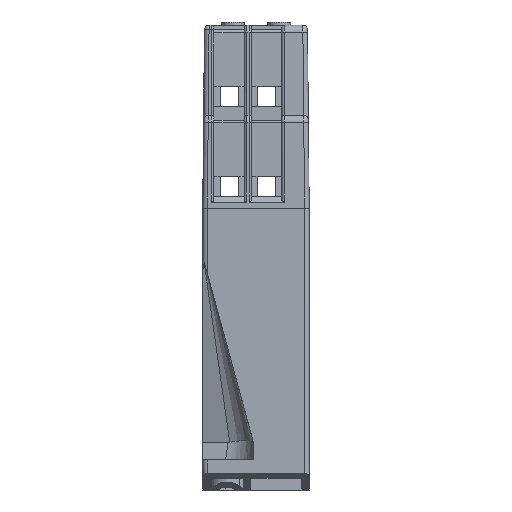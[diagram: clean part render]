
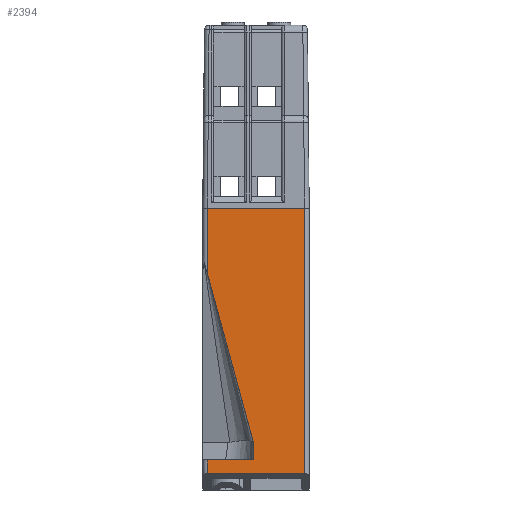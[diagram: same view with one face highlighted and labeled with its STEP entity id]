
A CAD part, left-side view. The second image highlights one B-rep face of the part: STEP entity #2394.
In plain terms, the highlighted planar face has unit normal (-1, 0, 0).
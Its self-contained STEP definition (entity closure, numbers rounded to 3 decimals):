
#2394 = ADVANCED_FACE( '', ( #4927 ), #4928, .F. );
#4927 = FACE_OUTER_BOUND( '', #8070, .T. );
#4928 = PLANE( '', #8071 );
#8070 = EDGE_LOOP( '', ( #15580, #15581, #15582, #15583, #15584, #15585, #15586, #15587 ) );
#8071 = AXIS2_PLACEMENT_3D( '', #15588, #15589, #15590 );
#15580 = ORIENTED_EDGE( '', *, *, #17244, .T. );
#15581 = ORIENTED_EDGE( '', *, *, #17096, .T. );
#15582 = ORIENTED_EDGE( '', *, *, #19326, .F. );
#15583 = ORIENTED_EDGE( '', *, *, #18962, .F. );
#15584 = ORIENTED_EDGE( '', *, *, #19461, .T. );
#15585 = ORIENTED_EDGE( '', *, *, #17604, .T. );
#15586 = ORIENTED_EDGE( '', *, *, #18768, .T. );
#15587 = ORIENTED_EDGE( '', *, *, #16918, .T. );
#15588 = CARTESIAN_POINT( '', ( -37.5, -11.35, 0. ) );
#15589 = DIRECTION( '', ( 1., 0., 0. ) );
#15590 = DIRECTION( '', ( 0., 1., 0. ) );
#16918 = EDGE_CURVE( '', #20488, #20485, #20489, .T. );
#17096 = EDGE_CURVE( '', #20795, #20792, #20796, .T. );
#17244 = EDGE_CURVE( '', #20485, #20795, #21048, .T. );
#17604 = EDGE_CURVE( '', #21645, #21642, #21646, .T. );
#18768 = EDGE_CURVE( '', #21642, #20488, #23332, .T. );
#18962 = EDGE_CURVE( '', #23582, #23578, #23584, .T. );
#19326 = EDGE_CURVE( '', #23578, #20792, #23997, .T. );
#19461 = EDGE_CURVE( '', #23582, #21645, #24138, .T. );
#20485 = VERTEX_POINT( '', #25576 );
#20488 = VERTEX_POINT( '', #25579 );
#20489 = LINE( '', #25580, #25581 );
#20792 = VERTEX_POINT( '', #26011 );
#20795 = VERTEX_POINT( '', #26014 );
#20796 = LINE( '', #26015, #26016 );
#21048 = LINE( '', #26382, #26383 );
#21642 = VERTEX_POINT( '', #27274 );
#21645 = VERTEX_POINT( '', #27277 );
#21646 = LINE( '', #27278, #27279 );
#23332 = LINE( '', #29853, #29854 );
#23578 = VERTEX_POINT( '', #30204 );
#23582 = VERTEX_POINT( '', #30210 );
#23584 = LINE( '', #30213, #30214 );
#23997 = LINE( '', #30831, #30832 );
#24138 = LINE( '', #31021, #31022 );
#25576 = CARTESIAN_POINT( '', ( -37.5, -10.5, 55.9 ) );
#25579 = CARTESIAN_POINT( '', ( -37.5, -10.5, -1.4 ) );
#25580 = CARTESIAN_POINT( '', ( -37.5, -10.5, 55.9 ) );
#25581 = VECTOR( '', #31732, 1000. );
#26011 = CARTESIAN_POINT( '', ( -37.5, 10.51, 41.817 ) );
#26014 = CARTESIAN_POINT( '', ( -37.5, 10.51, 55.9 ) );
#26015 = CARTESIAN_POINT( '', ( -37.5, 10.51, 45.451 ) );
#26016 = VECTOR( '', #31923, 1000. );
#26382 = CARTESIAN_POINT( '', ( -37.5, -11.35, 55.9 ) );
#26383 = VECTOR( '', #32086, 1000. );
#27274 = CARTESIAN_POINT( '', ( -37.5, 10.51, -1.4 ) );
#27277 = CARTESIAN_POINT( '', ( -37.5, 10.51, 1.5 ) );
#27278 = CARTESIAN_POINT( '', ( -37.5, 10.51, -1.4 ) );
#27279 = VECTOR( '', #32485, 1000. );
#29853 = CARTESIAN_POINT( '', ( -37.5, -11.35, -1.4 ) );
#29854 = VECTOR( '', #33751, 1000. );
#30204 = CARTESIAN_POINT( '', ( -37.5, 0.55, 5.25 ) );
#30210 = CARTESIAN_POINT( '', ( -37.5, 0.55, 1.5 ) );
#30213 = CARTESIAN_POINT( '', ( -37.5, 0.55, 1.5 ) );
#30214 = VECTOR( '', #33958, 1000. );
#30831 = CARTESIAN_POINT( '', ( -37.5, 11.35, 44.9 ) );
#30832 = VECTOR( '', #34218, 1000. );
#31021 = CARTESIAN_POINT( '', ( -37.5, 0.55, 1.5 ) );
#31022 = VECTOR( '', #34304, 1000. );
#31732 = DIRECTION( '', ( 0., 0., 1. ) );
#31923 = DIRECTION( '', ( 0., 0., -1. ) );
#32086 = DIRECTION( '', ( 0., 1., 0. ) );
#32485 = DIRECTION( '', ( 0., 0., -1. ) );
#33751 = DIRECTION( '', ( 0., -1., 0. ) );
#33958 = DIRECTION( '', ( 0., 0., 1. ) );
#34218 = DIRECTION( '', ( 0., 0.263, 0.965 ) );
#34304 = DIRECTION( '', ( 0., 1., 0. ) );
